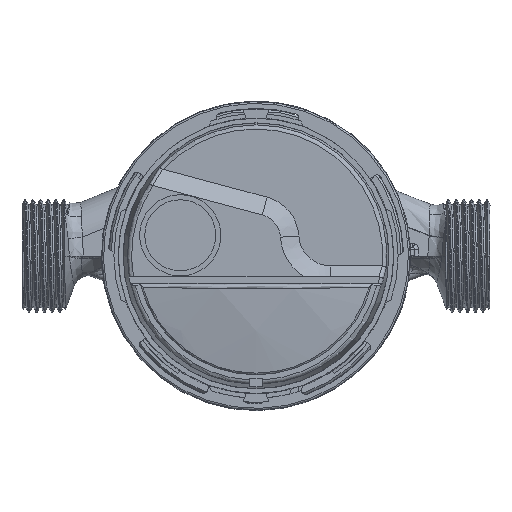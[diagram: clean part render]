
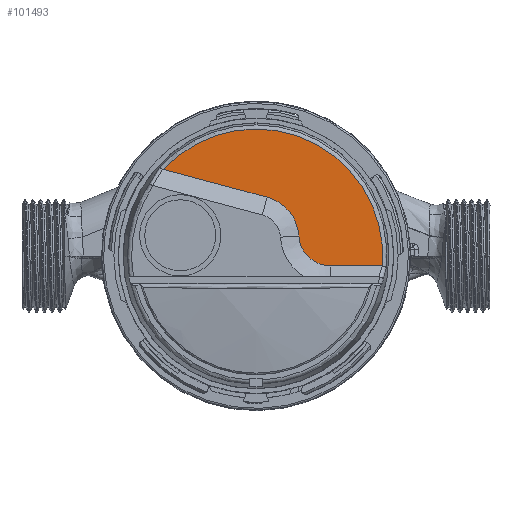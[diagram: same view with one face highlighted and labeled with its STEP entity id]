
A CAD part, top view. The second image highlights one B-rep face of the part: STEP entity #101493.
In plain terms, the highlighted planar face has unit normal (0, 0, 1) as drawn and (0, 1, 0) by its records, which use the part's own axes.
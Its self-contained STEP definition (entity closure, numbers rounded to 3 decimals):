
#342 = EDGE_CURVE ( 'NONE', #129876, #106846, #102181, .T. ) ;
#1434 = EDGE_CURVE ( 'NONE', #29608, #119603, #30575, .T. ) ;
#1516 = CARTESIAN_POINT ( 'NONE',  ( 17.566, 25., 2.4 ) ) ;
#4968 = EDGE_LOOP ( 'NONE', ( #59363, #18180, #24102, #117677, #79427, #49054 ) ) ;
#5437 = CARTESIAN_POINT ( 'NONE',  ( 29.601, 25., 2.4 ) ) ;
#6570 = CARTESIAN_POINT ( 'NONE',  ( 10.08, 25., -4.631 ) ) ;
#7738 = EDGE_CURVE ( 'NONE', #106846, #27363, #102274, .T. ) ;
#7812 = AXIS2_PLACEMENT_3D ( 'NONE', #36815, #116125, #126748 ) ;
#8249 = AXIS2_PLACEMENT_3D ( 'NONE', #9470, #119930, #70310 ) ;
#9025 = CARTESIAN_POINT ( 'NONE',  ( 29.626, 25., 2.4 ) ) ;
#9470 = CARTESIAN_POINT ( 'NONE',  ( 0., 25., -4. ) ) ;
#13341 = DIRECTION ( 'NONE',  ( 0., 1., 0. ) ) ;
#18180 = ORIENTED_EDGE ( 'NONE', *, *, #70758, .T. ) ;
#19210 = DIRECTION ( 'NONE',  ( 0., 1., 0. ) ) ;
#23333 = LINE ( 'NONE', #1516, #112661 ) ;
#24102 = ORIENTED_EDGE ( 'NONE', *, *, #342, .T. ) ;
#24924 = B_SPLINE_CURVE_WITH_KNOTS ( 'NONE', 3,
 ( #121436, #9025, #30887, #58538 ),
 .UNSPECIFIED., .F., .F.,
 ( 4, 4 ),
 ( 0., 0. ),
 .UNSPECIFIED. ) ;
#27363 = VERTEX_POINT ( 'NONE', #34678 ) ;
#29336 = CIRCLE ( 'NONE', #8249, 10.1 ) ;
#29608 = VERTEX_POINT ( 'NONE', #6570 ) ;
#30575 = CIRCLE ( 'NONE', #70628, 7.5 ) ;
#30887 = CARTESIAN_POINT ( 'NONE',  ( 29.65, 25., 2.402 ) ) ;
#33513 = DIRECTION ( 'NONE',  ( 0.966, 0., 0.259 ) ) ;
#34678 = CARTESIAN_POINT ( 'NONE',  ( 2.614, 25., -13.756 ) ) ;
#36815 = CARTESIAN_POINT ( 'NONE',  ( 17.566, 25., -5.1 ) ) ;
#42099 = CARTESIAN_POINT ( 'NONE',  ( -40., 25., -25.174 ) ) ;
#49054 = ORIENTED_EDGE ( 'NONE', *, *, #1434, .T. ) ;
#53574 = DIRECTION ( 'NONE',  ( 0., 0., 1. ) ) ;
#58538 = CARTESIAN_POINT ( 'NONE',  ( 29.674, 25., 2.405 ) ) ;
#59363 = ORIENTED_EDGE ( 'NONE', *, *, #85035, .T. ) ;
#60042 = CARTESIAN_POINT ( 'NONE',  ( -21.784, 25., -20.293 ) ) ;
#66265 = AXIS2_PLACEMENT_3D ( 'NONE', #103958, #13341, #53574 ) ;
#70310 = DIRECTION ( 'NONE',  ( 0., 0., 1. ) ) ;
#70628 = AXIS2_PLACEMENT_3D ( 'NONE', #99819, #19210, #121667 ) ;
#70758 = EDGE_CURVE ( 'NONE', #128342, #129876, #24924, .T. ) ;
#76421 = FACE_OUTER_BOUND ( 'NONE', #4968, .T. ) ;
#79427 = ORIENTED_EDGE ( 'NONE', *, *, #114875, .T. ) ;
#83445 = DIRECTION ( 'NONE',  ( 1., 0., 0. ) ) ;
#85035 = EDGE_CURVE ( 'NONE', #119603, #128342, #23333, .T. ) ;
#99819 = CARTESIAN_POINT ( 'NONE',  ( 17.566, 25., -5.1 ) ) ;
#101493 = ADVANCED_FACE ( 'NONE', ( #76421 ), #126088, .T. ) ;
#102181 = CIRCLE ( 'NONE', #66265, 29.772 ) ;
#102274 = LINE ( 'NONE', #42099, #105778 ) ;
#103958 = CARTESIAN_POINT ( 'NONE',  ( 0., 25., 0. ) ) ;
#105778 = VECTOR ( 'NONE', #33513, 1000. ) ;
#106846 = VERTEX_POINT ( 'NONE', #60042 ) ;
#112661 = VECTOR ( 'NONE', #83445, 1000. ) ;
#114875 = EDGE_CURVE ( 'NONE', #27363, #29608, #29336, .T. ) ;
#116125 = DIRECTION ( 'NONE',  ( 0., 1., 0. ) ) ;
#117677 = ORIENTED_EDGE ( 'NONE', *, *, #7738, .T. ) ;
#118701 = CARTESIAN_POINT ( 'NONE',  ( 17.566, 25., 2.4 ) ) ;
#119603 = VERTEX_POINT ( 'NONE', #118701 ) ;
#119930 = DIRECTION ( 'NONE',  ( 0., -1., 0. ) ) ;
#121436 = CARTESIAN_POINT ( 'NONE',  ( 29.601, 25., 2.4 ) ) ;
#121667 = DIRECTION ( 'NONE',  ( 0., 0., 1. ) ) ;
#126088 = PLANE ( 'NONE',  #7812 ) ;
#126748 = DIRECTION ( 'NONE',  ( 0., 0., 1. ) ) ;
#127035 = CARTESIAN_POINT ( 'NONE',  ( 29.674, 25., 2.405 ) ) ;
#128342 = VERTEX_POINT ( 'NONE', #5437 ) ;
#129876 = VERTEX_POINT ( 'NONE', #127035 ) ;
